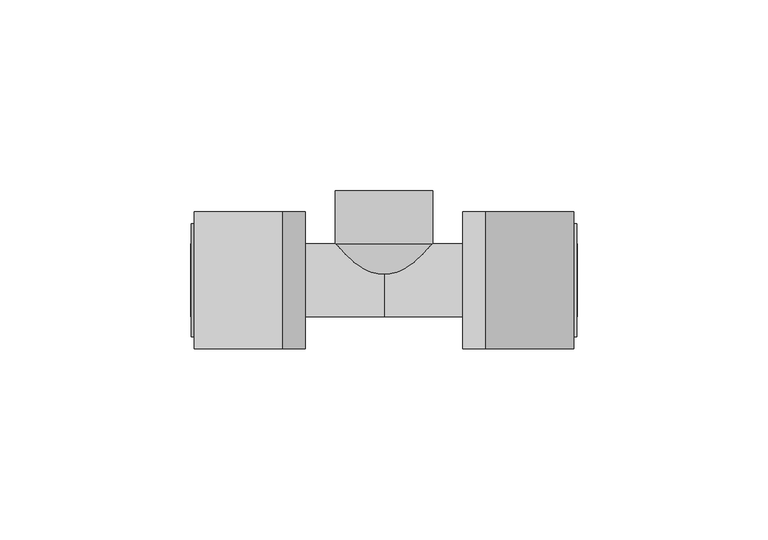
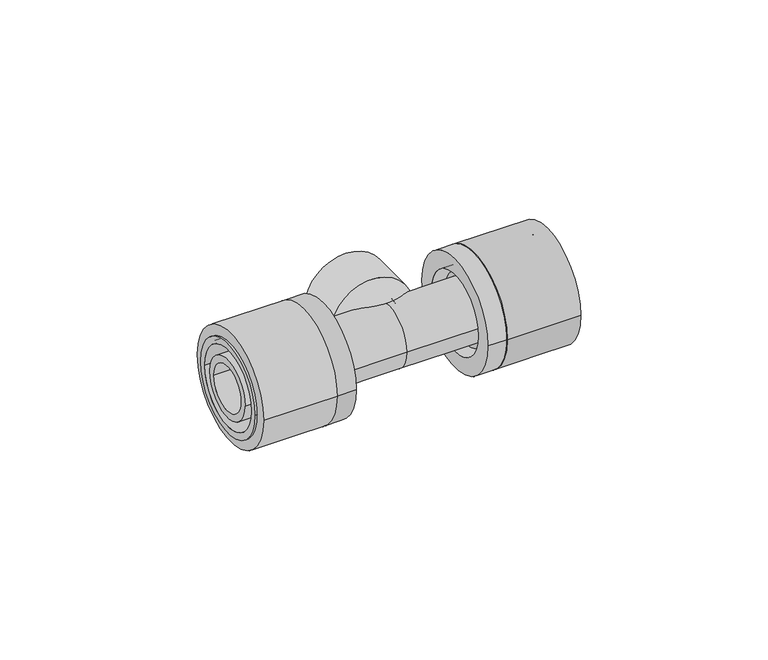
"""IFC4 building model written with IfcOpenShell, lengths in millimetres: pipe fitting geometry, FASTLOC_T-piece internal thread LX : FSL T thread LX CZ."""

from ifc_helpers import new_model, si_unit, point, frame, origin, origin_2d, place, context, project, spatial, polyline, circle_curve, ellipse_curve, trimmed, segment, composite_curve, outline, extrude, source, transform, mapped, element, save
from ifc_brep_helpers import plane_surface, cylinder_surface, revolved_surface, advanced_brep


def pipe_fitting_29c4d4eb(model_context):
    return source(origin(), model_context, "Body", "SolidModel", [
        extrude(outline(composite_curve([segment(trimmed(circle_curve(origin_2d(), 18.0), [point((-18.0, 0.0))], [point((18.0, 0.0))], False, "CARTESIAN"), True, "CONTINUOUS"), segment(trimmed(circle_curve(origin_2d(), 18.0), [point((18.0, 0.0))], [point((-18.0, 0.0))], False, "CARTESIAN"), True, "CONTINUOUS")], self_intersect=False), holes=[composite_curve([segment(trimmed(circle_curve(origin_2d(), 13.5), [point((-13.5, 0.0))], [point((13.5, 0.0))], True, "CARTESIAN"), True, "CONTINUOUS"), segment(trimmed(circle_curve(origin_2d(), 13.5), [point((13.5, 0.0))], [point((-13.5, 0.0))], True, "CARTESIAN"), True, "CONTINUOUS")], self_intersect=False)]), frame((26.7, 0.0, 0.0), z_axis=(1.0, 0.0, 0.0), x_axis=(0.0, 1.0, 0.0)), (0.0, 0.0, 1.0), 23.0),
        advanced_brep(
        [(26.7, 18.0, 0.0), (26.7, -18.0, 0.0), (20.7, -18.0, 0.0), (20.7, 18.0, 0.0), (50.5, 14.85, 0.0), (50.5, -14.85, 0.0), (26.7, -14.85, 0.0), (26.7, 14.85, 0.0), (20.7, 12.65, 0.0), (20.7, -12.65, 0.0), (50.5, -12.65, 0.0), (50.5, 12.65, 0.0)],
        [
            (0, 1, circle_curve(frame((26.7, 0.0, 0.0), z_axis=(-1.0, 0.0, 0.0), x_axis=(0.0, -1.0, 0.0)), 18.0)),
            (1, 2),
            (2, 3, circle_curve(frame((20.7, 0.0, 0.0), z_axis=(1.0, 0.0, 0.0), x_axis=(0.0, -1.0, 0.0)), 18.0)),
            (3, 0),
            (4, 5, circle_curve(frame((50.5, 0.0, 0.0), z_axis=(-1.0, 0.0, 0.0), x_axis=(0.0, -1.0, 0.0)), 14.85)),
            (5, 6),
            (6, 7, circle_curve(frame((26.7, 0.0, 0.0), z_axis=(1.0, 0.0, 0.0), x_axis=(0.0, -1.0, 0.0)), 14.85)),
            (7, 4),
            (8, 9, circle_curve(frame((20.7, 0.0, 0.0), z_axis=(-1.0, 0.0, 0.0), x_axis=(0.0, -1.0, 0.0)), 12.65)),
            (9, 10),
            (10, 11, circle_curve(frame((50.5, 0.0, 0.0), z_axis=(1.0, 0.0, 0.0), x_axis=(0.0, -1.0, 0.0)), 12.65)),
            (11, 8),
            (1, 0, circle_curve(frame((26.7, 0.0, 0.0), z_axis=(-1.0, 0.0, 0.0), x_axis=(0.0, 1.0, 0.0)), 18.0)),
            (3, 2, circle_curve(frame((20.7, 0.0, 0.0), z_axis=(1.0, 0.0, 0.0), x_axis=(0.0, 1.0, 0.0)), 18.0)),
            (6, 7, circle_curve(frame((26.7, 0.0, 0.0), z_axis=(-1.0, 0.0, 0.0), x_axis=(0.0, 1.0, 0.0)), 14.85)),
            (5, 4, circle_curve(frame((50.5, 0.0, 0.0), z_axis=(-1.0, 0.0, 0.0), x_axis=(0.0, 1.0, 0.0)), 14.85)),
            (10, 11, circle_curve(frame((50.5, 0.0, 0.0), z_axis=(-1.0, 0.0, 0.0), x_axis=(0.0, 1.0, 0.0)), 12.65)),
            (9, 8, circle_curve(frame((20.7, 0.0, 0.0), z_axis=(-1.0, 0.0, 0.0), x_axis=(0.0, 1.0, 0.0)), 12.65)),
        ],
        [
            cylinder_surface(frame((20.7, 0.0, 0.0), z_axis=(1.0, 0.0, 0.0), x_axis=(0.0, -1.0, 0.0)), 18.0),
            cylinder_surface(frame((20.7, 0.0, 0.0), z_axis=(1.0, 0.0, 0.0), x_axis=(0.0, -1.0, 0.0)), 14.85),
            revolved_surface(polyline([(50.5, -12.65, 0.0), (20.7, -12.65, 0.0)]), (20.7, 0.0, 0.0), (1.0, 0.0, 0.0)),
            cylinder_surface(frame((20.7, 0.0, 0.0), z_axis=(1.0, 0.0, 0.0), x_axis=(0.0, 1.0, 0.0)), 18.0),
            plane_surface(frame((26.7, 0.0, 0.0), z_axis=(1.0, 0.0, 0.0), x_axis=(0.0, 1.0, 0.0))),
            cylinder_surface(frame((20.7, 0.0, 0.0), z_axis=(1.0, 0.0, 0.0), x_axis=(0.0, 1.0, 0.0)), 14.85),
            plane_surface(frame((50.5, 0.0, 0.0), z_axis=(1.0, 0.0, 0.0), x_axis=(0.0, 1.0, 0.0))),
            revolved_surface(polyline([(50.5, 12.65, 0.0), (20.7, 12.65, 0.0)]), (20.7, 0.0, 0.0), (1.0, 0.0, 0.0)),
            plane_surface(frame((20.7, 0.0, 0.0), z_axis=(-1.0, 0.0, 0.0), x_axis=(0.0, 1.0, 0.0))),
        ],
        [
            (0, [[1, 2, 3, 4]]),
            (1, [[5, 6, 7, 8]]),
            (2, [[9, 10, 11, 12]]),
            (3, [[13, -4, 14, -2]]),
            (4, [[-13, -1], [15, -7]]),
            (5, [[16, -8, -15, -6]]),
            (6, [[-16, -5], [17, -11]]),
            (7, [[18, -12, -17, -10]]),
            (8, [[-14, -3], [-18, -9]]),
        ],
    ),
        extrude(outline(composite_curve([segment(trimmed(circle_curve(origin_2d(), 18.0), [point((18.0, 0.0))], [point((-18.0, 0.0))], False, "CARTESIAN"), True, "CONTINUOUS"), segment(trimmed(circle_curve(origin_2d(), 18.0), [point((-18.0, 0.0))], [point((18.0, 0.0))], False, "CARTESIAN"), True, "CONTINUOUS")], self_intersect=False), holes=[composite_curve([segment(trimmed(circle_curve(origin_2d(), 13.5), [point((13.5, 0.0))], [point((-13.5, 0.0))], True, "CARTESIAN"), True, "CONTINUOUS"), segment(trimmed(circle_curve(origin_2d(), 13.5), [point((-13.5, 0.0))], [point((13.5, 0.0))], True, "CARTESIAN"), True, "CONTINUOUS")], self_intersect=False)]), frame((-49.7, 0.0, 0.0), z_axis=(1.0, 0.0, 0.0), x_axis=(0.0, 1.0, 0.0)), (0.0, 0.0, 1.0), 23.0),
        advanced_brep(
        [(-26.7, -18.0, 0.0), (-26.7, 18.0, 0.0), (-20.7, 18.0, 0.0), (-20.7, -18.0, 0.0), (-50.5, -14.85, 0.0), (-50.5, 14.85, 0.0), (-26.7, 14.85, 0.0), (-26.7, -14.85, 0.0), (-20.7, -12.65, 0.0), (-20.7, 12.65, 0.0), (-50.5, 12.65, 0.0), (-50.5, -12.65, 0.0)],
        [
            (0, 1, circle_curve(frame((-26.7, 0.0, 0.0), z_axis=(1.0, 0.0, 0.0), x_axis=(0.0, 1.0, 0.0)), 18.0)),
            (1, 2),
            (2, 3, circle_curve(frame((-20.7, 0.0, 0.0), z_axis=(-1.0, 0.0, 0.0), x_axis=(0.0, 1.0, 0.0)), 18.0)),
            (3, 0),
            (4, 5, circle_curve(frame((-50.5, 0.0, 0.0), z_axis=(1.0, 0.0, 0.0), x_axis=(0.0, 1.0, 0.0)), 14.85)),
            (5, 6),
            (6, 7, circle_curve(frame((-26.7, 0.0, 0.0), z_axis=(-1.0, 0.0, 0.0), x_axis=(0.0, 1.0, 0.0)), 14.85)),
            (7, 4),
            (8, 9, circle_curve(frame((-20.7, 0.0, 0.0), z_axis=(1.0, 0.0, 0.0), x_axis=(0.0, 1.0, 0.0)), 12.65)),
            (9, 10),
            (10, 11, circle_curve(frame((-50.5, 0.0, 0.0), z_axis=(-1.0, 0.0, 0.0), x_axis=(0.0, 1.0, 0.0)), 12.65)),
            (11, 8),
            (1, 0, circle_curve(frame((-26.7, 0.0, 0.0), z_axis=(1.0, 0.0, 0.0), x_axis=(0.0, -1.0, 0.0)), 18.0)),
            (3, 2, circle_curve(frame((-20.7, 0.0, 0.0), z_axis=(-1.0, 0.0, 0.0), x_axis=(0.0, -1.0, 0.0)), 18.0)),
            (6, 7, circle_curve(frame((-26.7, 0.0, 0.0), z_axis=(1.0, 0.0, 0.0), x_axis=(0.0, -1.0, 0.0)), 14.85)),
            (5, 4, circle_curve(frame((-50.5, 0.0, 0.0), z_axis=(1.0, 0.0, 0.0), x_axis=(0.0, -1.0, 0.0)), 14.85)),
            (10, 11, circle_curve(frame((-50.5, 0.0, 0.0), z_axis=(1.0, 0.0, 0.0), x_axis=(0.0, -1.0, 0.0)), 12.65)),
            (9, 8, circle_curve(frame((-20.7, 0.0, 0.0), z_axis=(1.0, 0.0, 0.0), x_axis=(0.0, -1.0, 0.0)), 12.65)),
        ],
        [
            cylinder_surface(frame((-20.7, 0.0, 0.0), z_axis=(-1.0, 0.0, 0.0), x_axis=(0.0, 1.0, 0.0)), 18.0),
            cylinder_surface(frame((-20.7, 0.0, 0.0), z_axis=(-1.0, 0.0, 0.0), x_axis=(0.0, 1.0, 0.0)), 14.85),
            revolved_surface(polyline([(-50.5, 12.65, 0.0), (-20.7, 12.65, 0.0)]), (-20.7, 0.0, 0.0), (-1.0, 0.0, 0.0)),
            cylinder_surface(frame((-20.7, 0.0, 0.0), z_axis=(-1.0, 0.0, 0.0), x_axis=(0.0, -1.0, 0.0)), 18.0),
            plane_surface(frame((-26.7, 0.0, 0.0), z_axis=(-1.0, 0.0, 0.0), x_axis=(0.0, -1.0, 0.0))),
            cylinder_surface(frame((-20.7, 0.0, 0.0), z_axis=(-1.0, 0.0, 0.0), x_axis=(0.0, -1.0, 0.0)), 14.85),
            plane_surface(frame((-50.5, 0.0, 0.0), z_axis=(-1.0, 0.0, 0.0), x_axis=(0.0, -1.0, 0.0))),
            revolved_surface(polyline([(-50.5, -12.65, 0.0), (-20.7, -12.65, 0.0)]), (-20.7, 0.0, 0.0), (-1.0, 0.0, 0.0)),
            plane_surface(frame((-20.7, 0.0, 0.0), z_axis=(1.0, 0.0, 0.0), x_axis=(0.0, -1.0, 0.0))),
        ],
        [
            (0, [[1, 2, 3, 4]]),
            (1, [[5, 6, 7, 8]]),
            (2, [[9, 10, 11, 12]]),
            (3, [[13, -4, 14, -2]]),
            (4, [[-13, -1], [15, -7]]),
            (5, [[16, -8, -15, -6]]),
            (6, [[-16, -5], [17, -11]]),
            (7, [[18, -12, -17, -10]]),
            (8, [[-14, -3], [-18, -9]]),
        ],
    ),
        advanced_brep(
        [(26.7, 11.1, 0.0), (26.7, -11.1, 0.0), (23.9, -11.1, 0.0), (23.9, 11.1, 0.0), (50.7, 9.6, 0.0), (50.7, -9.6, 0.0), (26.7, -9.6, 0.0), (26.7, 9.6, 0.0), (-50.7, 7.35, 0.0), (-50.7, -7.35, 0.0), (50.7, -7.35, 0.0), (50.7, 7.35, 0.0), (-26.7, 9.6, 0.0), (-26.7, -9.6, 0.0), (-50.7, -9.6, 0.0), (-50.7, 9.6, 0.0), (-23.9, 11.1, 0.0), (-23.9, -11.1, 0.0), (-26.7, -11.1, 0.0), (-26.7, 11.1, 0.0), (0.0, 9.6, 0.0), (0.0, -9.6, 0.0), (-23.9, -9.6, 0.0), (-23.9, 9.6, 0.0), (23.9, 9.6, 0.0), (23.9, -9.6, 0.0)],
        [
            (0, 1, circle_curve(frame((26.7, 0.0, 0.0), z_axis=(-1.0, 0.0, 0.0), x_axis=(0.0, -1.0, 0.0)), 11.1)),
            (1, 2),
            (2, 3, circle_curve(frame((23.9, 0.0, 0.0), z_axis=(1.0, 0.0, 0.0), x_axis=(0.0, -1.0, 0.0)), 11.1)),
            (3, 0),
            (4, 5, circle_curve(frame((50.7, 0.0, 0.0), z_axis=(-1.0, 0.0, 0.0), x_axis=(0.0, -1.0, 0.0)), 9.6)),
            (5, 6),
            (6, 7, circle_curve(frame((26.7, 0.0, 0.0), z_axis=(1.0, 0.0, 0.0), x_axis=(0.0, -1.0, 0.0)), 9.6)),
            (7, 4),
            (8, 9, circle_curve(frame((-50.7, 0.0, 0.0), z_axis=(-1.0, 0.0, 0.0), x_axis=(0.0, -1.0, 0.0)), 7.35)),
            (9, 10),
            (10, 11, circle_curve(frame((50.7, 0.0, 0.0), z_axis=(1.0, 0.0, 0.0), x_axis=(0.0, -1.0, 0.0)), 7.35)),
            (11, 8),
            (12, 13, circle_curve(frame((-26.7, 0.0, 0.0), z_axis=(-1.0, 0.0, 0.0), x_axis=(0.0, -1.0, 0.0)), 9.6)),
            (13, 14),
            (14, 15, circle_curve(frame((-50.7, 0.0, 0.0), z_axis=(1.0, 0.0, 0.0), x_axis=(0.0, -1.0, 0.0)), 9.6)),
            (15, 12),
            (16, 17, circle_curve(frame((-23.9, 0.0, 0.0), z_axis=(-1.0, 0.0, 0.0), x_axis=(0.0, -1.0, 0.0)), 11.1)),
            (17, 18),
            (18, 19, circle_curve(frame((-26.7, 0.0, 0.0), z_axis=(1.0, 0.0, 0.0), x_axis=(0.0, -1.0, 0.0)), 11.1)),
            (19, 16),
            (20, 21, circle_curve(frame((0.0, 0.0, 0.0), z_axis=(-1.0, 0.0, 0.0), x_axis=(0.0, -1.0, 0.0)), 9.6)),
            (21, 22),
            (22, 23, circle_curve(frame((-23.9, 0.0, 0.0), z_axis=(1.0, 0.0, 0.0), x_axis=(0.0, -1.0, 0.0)), 9.6)),
            (23, 20),
            (24, 25, circle_curve(frame((23.9, 0.0, 0.0), z_axis=(-1.0, 0.0, 0.0), x_axis=(0.0, -1.0, 0.0)), 9.6)),
            (25, 21),
            (20, 24),
            (1, 0, circle_curve(frame((26.7, 0.0, 0.0), z_axis=(-1.0, 0.0, 0.0), x_axis=(0.0, 1.0, 0.0)), 11.1)),
            (3, 2, circle_curve(frame((23.9, 0.0, 0.0), z_axis=(1.0, 0.0, 0.0), x_axis=(0.0, 1.0, 0.0)), 11.1)),
            (6, 7, circle_curve(frame((26.7, 0.0, 0.0), z_axis=(-1.0, 0.0, 0.0), x_axis=(0.0, 1.0, 0.0)), 9.6)),
            (5, 4, circle_curve(frame((50.7, 0.0, 0.0), z_axis=(-1.0, 0.0, 0.0), x_axis=(0.0, 1.0, 0.0)), 9.6)),
            (10, 11, circle_curve(frame((50.7, 0.0, 0.0), z_axis=(-1.0, 0.0, 0.0), x_axis=(0.0, 1.0, 0.0)), 7.35)),
            (9, 8, circle_curve(frame((-50.7, 0.0, 0.0), z_axis=(-1.0, 0.0, 0.0), x_axis=(0.0, 1.0, 0.0)), 7.35)),
            (14, 15, circle_curve(frame((-50.7, 0.0, 0.0), z_axis=(-1.0, 0.0, 0.0), x_axis=(0.0, 1.0, 0.0)), 9.6)),
            (13, 12, circle_curve(frame((-26.7, 0.0, 0.0), z_axis=(-1.0, 0.0, 0.0), x_axis=(0.0, 1.0, 0.0)), 9.6)),
            (18, 19, circle_curve(frame((-26.7, 0.0, 0.0), z_axis=(-1.0, 0.0, 0.0), x_axis=(0.0, 1.0, 0.0)), 11.1)),
            (17, 16, circle_curve(frame((-23.9, 0.0, 0.0), z_axis=(-1.0, 0.0, 0.0), x_axis=(0.0, 1.0, 0.0)), 11.1)),
            (22, 23, circle_curve(frame((-23.9, 0.0, 0.0), z_axis=(-1.0, 0.0, 0.0), x_axis=(0.0, 1.0, 0.0)), 9.6)),
            (21, 20, circle_curve(frame((0.0, 0.0, 0.0), z_axis=(-1.0, 0.0, 0.0), x_axis=(0.0, 1.0, 0.0)), 9.6)),
            (25, 24, circle_curve(frame((23.9, 0.0, 0.0), z_axis=(-1.0, 0.0, 0.0), x_axis=(0.0, 1.0, 0.0)), 9.6)),
        ],
        [
            cylinder_surface(frame((0.0, 0.0, 0.0), z_axis=(1.0, 0.0, 0.0), x_axis=(0.0, -1.0, 0.0)), 11.1),
            cylinder_surface(frame((0.0, 0.0, 0.0), z_axis=(1.0, 0.0, 0.0), x_axis=(0.0, -1.0, 0.0)), 9.6),
            revolved_surface(polyline([(50.7, -7.35, 0.0), (-50.7, -7.35, 0.0)]), (0.0, 0.0, 0.0), (1.0, 0.0, 0.0)),
            cylinder_surface(frame((0.0, 0.0, 0.0), z_axis=(1.0, 0.0, 0.0), x_axis=(0.0, 1.0, 0.0)), 11.1),
            plane_surface(frame((26.7, 0.0, 0.0), z_axis=(1.0, 0.0, 0.0), x_axis=(0.0, 1.0, 0.0))),
            cylinder_surface(frame((0.0, 0.0, 0.0), z_axis=(1.0, 0.0, 0.0), x_axis=(0.0, 1.0, 0.0)), 9.6),
            plane_surface(frame((50.7, 0.0, 0.0), z_axis=(1.0, 0.0, 0.0), x_axis=(0.0, 1.0, 0.0))),
            revolved_surface(polyline([(50.7, 7.35, 0.0), (-50.7, 7.35, 0.0)]), (0.0, 0.0, 0.0), (1.0, 0.0, 0.0)),
            plane_surface(frame((-50.7, 0.0, 0.0), z_axis=(-1.0, 0.0, 0.0), x_axis=(0.0, 1.0, 0.0))),
            plane_surface(frame((-26.7, 0.0, 0.0), z_axis=(-1.0, 0.0, 0.0), x_axis=(0.0, 1.0, 0.0))),
            plane_surface(frame((-23.9, 0.0, 0.0), z_axis=(1.0, 0.0, 0.0), x_axis=(0.0, 1.0, 0.0))),
            plane_surface(frame((23.9, 0.0, 0.0), z_axis=(-1.0, 0.0, 0.0), x_axis=(0.0, 1.0, 0.0))),
        ],
        [
            (0, [[1, 2, 3, 4]]),
            (1, [[5, 6, 7, 8]]),
            (2, [[9, 10, 11, 12]]),
            (1, [[13, 14, 15, 16]]),
            (0, [[17, 18, 19, 20]]),
            (1, [[21, 22, 23, 24]]),
            (1, [[25, 26, -21, 27]]),
            (3, [[28, -4, 29, -2]]),
            (4, [[-28, -1], [30, -7]]),
            (5, [[31, -8, -30, -6]]),
            (6, [[-31, -5], [32, -11]]),
            (7, [[33, -12, -32, -10]]),
            (8, [[34, -15], [-33, -9]]),
            (5, [[35, -16, -34, -14]]),
            (9, [[36, -19], [-35, -13]]),
            (3, [[37, -20, -36, -18]]),
            (10, [[-37, -17], [38, -23]]),
            (5, [[39, -24, -38, -22]]),
            (5, [[40, -27, -39, -26]]),
            (11, [[-29, -3], [-40, -25]]),
        ],
    ),
        advanced_brep(
        [(0.5, -3.3401923, 0.0), (-0.5, -3.3401923, 0.0), (-12.75, 9.4, 0.0), (12.75, 9.4, 0.0), (0.5, 1.9166852, 0.0), (-0.5, 1.9166852, 0.0), (7.5, 9.4, 0.0), (-7.5, 9.4, 0.0), (7.5, 23.5, 0.0), (-7.5, 23.5, 0.0), (-12.75, 23.5, 0.0), (12.75, 23.5, 0.0)],
        [
            (0, 1, circle_curve(frame((0.0, -3.3401923, 0.0), z_axis=(0.0, 1.0, 0.0), x_axis=(-1.0, 0.0, 0.0)), 0.5)),
            (1, 2, circle_curve(frame((0.0, 9.4, 0.0), z_axis=(0.0, 0.0, -1.0), x_axis=(0.0, 1.0, 0.0)), 12.75)),
            (2, 3, circle_curve(frame((0.0, 9.4, 0.0), z_axis=(0.0, -1.0, 0.0), x_axis=(-1.0, 0.0, 0.0)), 12.75)),
            (3, 0, circle_curve(frame((0.0, 9.4, 0.0), z_axis=(0.0, 0.0, -1.0), x_axis=(0.0, 1.0, 0.0)), 12.75)),
            (4, 5, circle_curve(frame((0.0, 1.9166852, 0.0), z_axis=(0.0, 1.0, 0.0), x_axis=(-1.0, 0.0, 0.0)), 0.5)),
            (5, 1),
            (0, 4),
            (6, 7, circle_curve(frame((0.0, 9.4, 0.0), z_axis=(0.0, 1.0, 0.0), x_axis=(-1.0, 0.0, 0.0)), 7.5)),
            (7, 5, circle_curve(frame((0.0, 9.4, 0.0), z_axis=(0.0, 0.0, 1.0), x_axis=(0.0, 1.0, 0.0)), 7.5)),
            (4, 6, circle_curve(frame((0.0, 9.4, 0.0), z_axis=(0.0, 0.0, 1.0), x_axis=(0.0, 1.0, 0.0)), 7.5)),
            (8, 9, circle_curve(frame((0.0, 23.5, 0.0), z_axis=(0.0, 1.0, 0.0), x_axis=(-1.0, 0.0, 0.0)), 7.5)),
            (9, 7),
            (6, 8),
            (2, 10),
            (10, 11, circle_curve(frame((0.0, 23.5, 0.0), z_axis=(0.0, -1.0, 0.0), x_axis=(-1.0, 0.0, 0.0)), 12.75)),
            (11, 3),
            (1, 0, circle_curve(frame((0.0, -3.3401923, 0.0), z_axis=(0.0, 1.0, 0.0), x_axis=(1.0, 0.0, 0.0)), 0.5)),
            (3, 2, circle_curve(frame((0.0, 9.4, 0.0), z_axis=(0.0, -1.0, 0.0), x_axis=(1.0, 0.0, 0.0)), 12.75)),
            (5, 4, circle_curve(frame((0.0, 1.9166852, 0.0), z_axis=(0.0, 1.0, 0.0), x_axis=(1.0, 0.0, 0.0)), 0.5)),
            (7, 6, circle_curve(frame((0.0, 9.4, 0.0), z_axis=(0.0, 1.0, 0.0), x_axis=(1.0, 0.0, 0.0)), 7.5)),
            (9, 8, circle_curve(frame((0.0, 23.5, 0.0), z_axis=(0.0, 1.0, 0.0), x_axis=(1.0, 0.0, 0.0)), 7.5)),
            (10, 11, circle_curve(frame((0.0, 23.5, 0.0), z_axis=(0.0, 1.0, 0.0), x_axis=(1.0, 0.0, 0.0)), 12.75)),
        ],
        [
            revolved_surface(trimmed(ellipse_curve(frame((0.0, 9.4, 0.0), z_axis=(0.0, 0.0, 1.0), x_axis=(0.0, 1.0, 0.0)), 12.75, 12.75), [point((-12.75, 9.4, 0.0))], [point((-0.5, -3.3401923, 0.0))], True, "CARTESIAN"), (0.0, 0.0, 0.0), (0.0, -1.0, 0.0)),
            revolved_surface(polyline([(-0.5, -3.3401923, 0.0), (-0.5, 1.9166852, 0.0)]), (0.0, 0.0, 0.0), (0.0, -1.0, 0.0)),
            revolved_surface(trimmed(ellipse_curve(frame((0.0, 9.4, 0.0), z_axis=(0.0, 0.0, -1.0), x_axis=(0.0, 1.0, 0.0)), 7.5, 7.5), [point((-0.5, 1.9166852, 0.0))], [point((-7.5, 9.4, 0.0))], True, "CARTESIAN"), (0.0, 0.0, 0.0), (0.0, -1.0, 0.0)),
            revolved_surface(polyline([(-7.5, 9.4, 0.0), (-7.5, 23.5, 0.0)]), (0.0, 0.0, 0.0), (0.0, -1.0, 0.0)),
            cylinder_surface(frame((0.0, 0.0, 0.0), z_axis=(0.0, -1.0, 0.0), x_axis=(-1.0, 0.0, 0.0)), 12.75),
            revolved_surface(trimmed(ellipse_curve(frame((0.0, 9.4, 0.0), z_axis=(0.0, 0.0, -1.0), x_axis=(0.0, 1.0, 0.0)), 12.75, 12.75), [point((12.75, 9.4, 0.0))], [point((0.5, -3.3401923, 0.0))], True, "CARTESIAN"), (0.0, 0.0, 0.0), (0.0, -1.0, 0.0)),
            revolved_surface(polyline([(0.5, -3.3401923, 0.0), (0.5, 1.9166852, 0.0)]), (0.0, 0.0, 0.0), (0.0, -1.0, 0.0)),
            revolved_surface(trimmed(ellipse_curve(frame((0.0, 9.4, 0.0), z_axis=(0.0, 0.0, 1.0), x_axis=(0.0, 1.0, 0.0)), 7.5, 7.5), [point((0.5, 1.9166852, 0.0))], [point((7.5, 9.4, 0.0))], True, "CARTESIAN"), (0.0, 0.0, 0.0), (0.0, -1.0, 0.0)),
            revolved_surface(polyline([(7.5, 9.4, 0.0), (7.5, 23.5, 0.0)]), (0.0, 0.0, 0.0), (0.0, -1.0, 0.0)),
            plane_surface(frame((0.0, 23.5, 0.0), z_axis=(0.0, 1.0, 0.0), x_axis=(1.0, 0.0, 0.0))),
            cylinder_surface(frame((0.0, 0.0, 0.0), z_axis=(0.0, -1.0, 0.0), x_axis=(1.0, 0.0, 0.0)), 12.75),
        ],
        [
            (0, [[1, 2, 3, 4]]),
            (1, [[5, 6, -1, 7]]),
            (2, [[8, 9, -5, 10]]),
            (3, [[11, 12, -8, 13]]),
            (4, [[-3, 14, 15, 16]]),
            (5, [[17, -4, 18, -2]]),
            (6, [[19, -7, -17, -6]]),
            (7, [[20, -10, -19, -9]]),
            (8, [[21, -13, -20, -12]]),
            (9, [[22, -15], [-21, -11]]),
            (10, [[-18, -16, -22, -14]]),
        ],
    ),
    ])


if __name__ == "__main__":
    model = new_model("IFC4")
    model_context = context("Model", 3, world=origin())
    ifc_project = project(units=[si_unit("LENGTHUNIT", "METRE", prefix="MILLI")], contexts=[model_context])
    site = spatial("IfcSite", under=ifc_project)
    building = spatial("IfcBuilding", under=site)
    placement = place(None, origin())
    pipe_fitting_shape = pipe_fitting_29c4d4eb(model_context)
    element("IfcPipeFitting", 1, ObjectType="FASTLOC_T-piece internal thread LX : FSL T thread LX CZ", at=placement, inside=building, context=model_context, shape_type="MappedRepresentation", body=[
        mapped(pipe_fitting_shape, transform((0.0, 0.0, 0.0), x_axis=(1.0, 0.0, 0.0), y_axis=(0.0, 1.0, 0.0), z_axis=(0.0, 0.0, 1.0))),
    ])
    save(model, "model.ifc")
